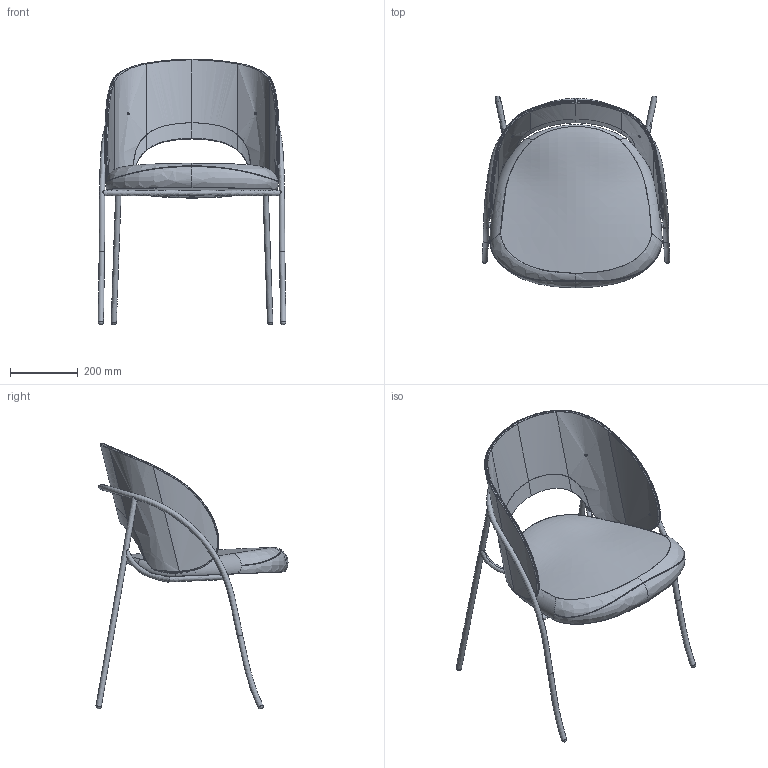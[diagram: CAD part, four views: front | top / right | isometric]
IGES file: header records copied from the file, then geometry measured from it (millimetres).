
Global section: file name: D:\Utente\Downloads\3D gtv 2023\3D HAGU\hagu.igs; native system: Rhinoceros ( Aug 11 2021 ); preprocessor: Trout Lake IGES 012 Aug 11 2021; date: 230413.082254; units: millimetre
Bounding box: 555.1 x 567.23 x 785.59 mm (x, y, z)
Surface area: 1399750.2 mm2 (no closed solid volume)
Topology: 0 solids, 0 shells, 129 faces, 3128 edges, 3102 vertices
Faces by surface type: bspline 129
